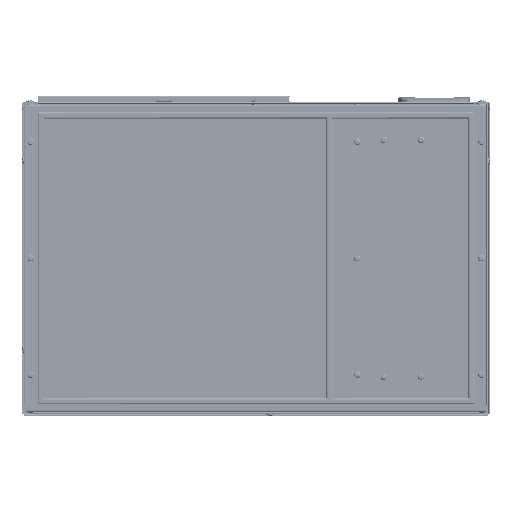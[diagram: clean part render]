
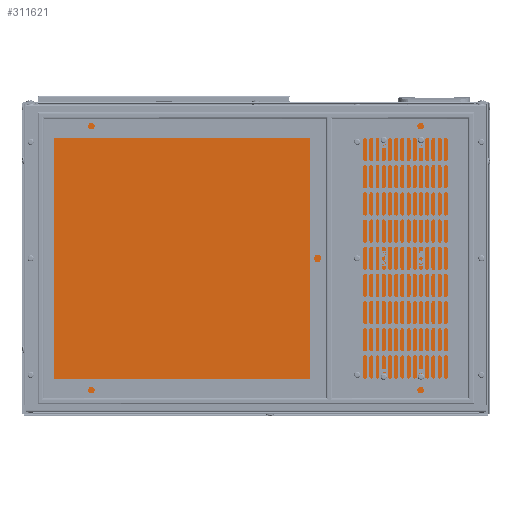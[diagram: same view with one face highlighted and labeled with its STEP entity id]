
A CAD part, front view. The second image highlights one B-rep face of the part: STEP entity #311621.
In plain terms, the highlighted planar face has unit normal (0, -1, 0).
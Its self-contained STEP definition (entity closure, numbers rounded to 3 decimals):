
#6720 = ORIENTED_EDGE ( 'NONE', *, *, #338619, .F. ) ;
#9039 = CARTESIAN_POINT ( 'NONE',  ( -501.383, -131.154, -424.169 ) ) ;
#14371 = DIRECTION ( 'NONE',  ( 0., 0., -1. ) ) ;
#15469 = EDGE_CURVE ( 'NONE', #186341, #366471, #114317, .T. ) ;
#18429 = VERTEX_POINT ( 'NONE', #9039 ) ;
#19672 = DIRECTION ( 'NONE',  ( 0., 1., 0. ) ) ;
#22088 = CARTESIAN_POINT ( 'NONE',  ( 91.117, -131.154, -424.169 ) ) ;
#28951 = VECTOR ( 'NONE', #326756, 1000. ) ;
#50591 = PLANE ( 'NONE',  #377657 ) ;
#94711 = ORIENTED_EDGE ( 'NONE', *, *, #238902, .F. ) ;
#114317 = LINE ( 'NONE', #364639, #28951 ) ;
#118914 = DIRECTION ( 'NONE',  ( 1., 0., 0. ) ) ;
#143470 = VECTOR ( 'NONE', #14371, 1000. ) ;
#147415 = CARTESIAN_POINT ( 'NONE',  ( 0., -131.154, 0. ) ) ;
#156984 = EDGE_CURVE ( 'NONE', #18429, #186907, #257226, .T. ) ;
#161706 = VECTOR ( 'NONE', #387347, 1000. ) ;
#178972 = CARTESIAN_POINT ( 'NONE',  ( -501.383, -131.154, -815.669 ) ) ;
#186341 = VERTEX_POINT ( 'NONE', #192354 ) ;
#186907 = VERTEX_POINT ( 'NONE', #351815 ) ;
#191910 = ORIENTED_EDGE ( 'NONE', *, *, #156984, .F. ) ;
#192354 = CARTESIAN_POINT ( 'NONE',  ( 91.117, -131.154, -815.669 ) ) ;
#235152 = ORIENTED_EDGE ( 'NONE', *, *, #15469, .F. ) ;
#238853 = LINE ( 'NONE', #269727, #143470 ) ;
#238902 = EDGE_CURVE ( 'NONE', #186907, #186341, #238853, .T. ) ;
#244195 = DIRECTION ( 'NONE',  ( 0., 0., 1. ) ) ;
#257226 = LINE ( 'NONE', #22088, #397724 ) ;
#259776 = CARTESIAN_POINT ( 'NONE',  ( -501.383, -131.154, -424.169 ) ) ;
#269727 = CARTESIAN_POINT ( 'NONE',  ( 91.117, -131.154, -424.169 ) ) ;
#311621 = ADVANCED_FACE ( 'NONE', ( #396787 ), #50591, .F. ) ;
#326756 = DIRECTION ( 'NONE',  ( -1., 0., 0. ) ) ;
#332418 = LINE ( 'NONE', #259776, #161706 ) ;
#338619 = EDGE_CURVE ( 'NONE', #366471, #18429, #332418, .T. ) ;
#351815 = CARTESIAN_POINT ( 'NONE',  ( 91.117, -131.154, -424.169 ) ) ;
#364639 = CARTESIAN_POINT ( 'NONE',  ( 91.117, -131.154, -815.669 ) ) ;
#366471 = VERTEX_POINT ( 'NONE', #178972 ) ;
#377657 = AXIS2_PLACEMENT_3D ( 'NONE', #147415, #19672, #244195 ) ;
#387347 = DIRECTION ( 'NONE',  ( 0., 0., 1. ) ) ;
#396787 = FACE_OUTER_BOUND ( 'NONE', #400404, .T. ) ;
#397724 = VECTOR ( 'NONE', #118914, 1000. ) ;
#400404 = EDGE_LOOP ( 'NONE', ( #94711, #191910, #6720, #235152 ) ) ;
